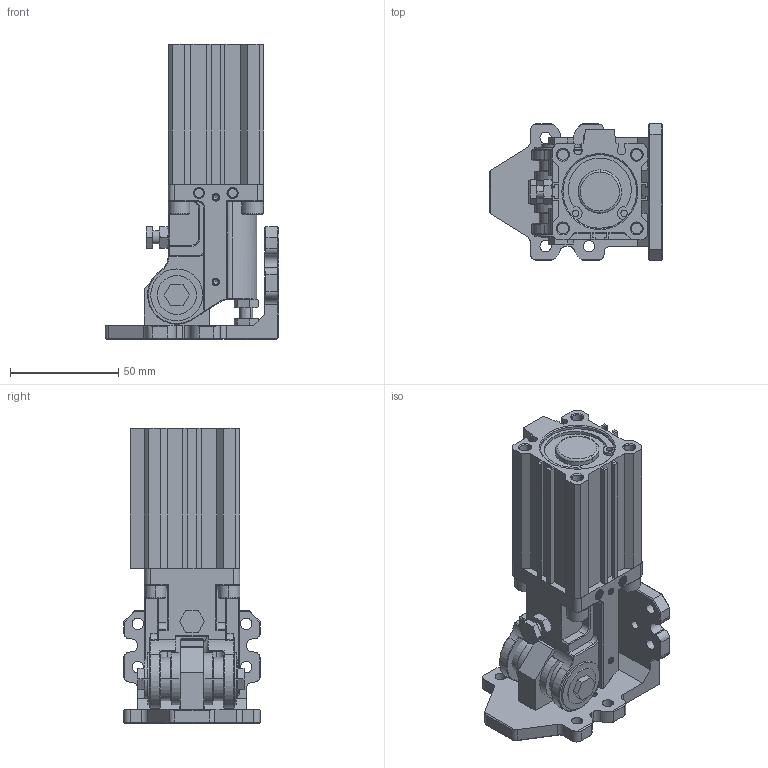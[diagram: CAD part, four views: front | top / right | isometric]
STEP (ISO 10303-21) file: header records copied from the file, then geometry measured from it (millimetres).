
FILE_DESCRIPTION(/* description */ (''),/* implementation_level */ '2;1');
FILE_NAME(/* name */ 'DHR2C-32M30ZG-LB(2022).stp',/* time_stamp */ '2022-11-02T16:31:35+08:00',/* author */ (''),/* organization */ (''),/* preprocessor_version */ 'ST-DEVELOPER v14',/* originating_system */ 'SIEMENS PLM Software NX 8.0',/* authorisation */ '');
FILE_SCHEMA (('AP203_CONFIGURATION_CONTROLLED_3D_DESIGN_OF_MECHANICAL_PARTS_AND_ASSEMBLIES_MIM_LF { 1 0 10303 403 2 1 2}'));
Products named in the file (1): Admi1648FD98p2wd
Bounding box: 80.08 x 63.01 x 136.07 mm (x, y, z)
Volume: 222836.3 mm3; surface area: 87622.9 mm2
Topology: 30 solids, 30 shells, 1287 faces, 3160 edges, 1955 vertices
Faces by surface type: plane 618, cylinder 370, cone 259, bspline 32, torus 8
Full cylindrical faces by diameter (mm): 4 x1, 5 x16, 6.5 x4, 10 x2, 15 x2, 16 x1, 20.5 x1
Entity records: 70285 total; most frequent: CARTESIAN_POINT 40161, DIRECTION 6433, ORIENTED_EDGE 6078, EDGE_CURVE 3039, AXIS2_PLACEMENT_3D 2373, VERTEX_POINT 1897, LINE 1687, VECTOR 1687
